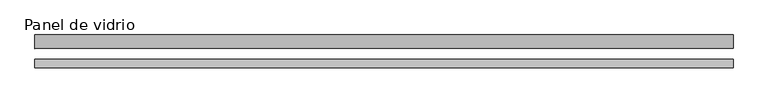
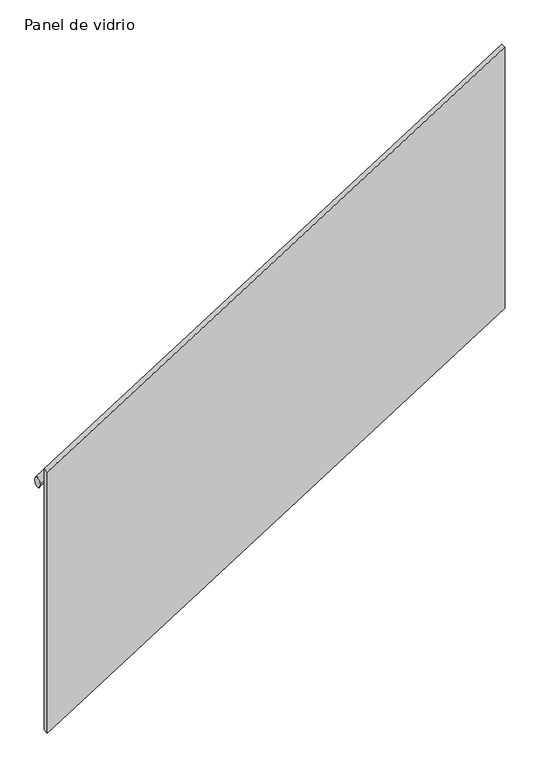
"""IFC4 building model written with IfcOpenShell, lengths in millimetres: railing geometry, Panel de vidrio."""

import ifcopenshell
import ifcopenshell.guid

model = None  # the IFC model being written
_history = None  # IfcOwnerHistory: only IFC2X3 demands one
_inside = {}  # id of a spatial element -> (the spatial element, [elements in it])
_under = {}  # id of a project, library or spatial element -> (it, [spatial elements below it])
_declared = {}  # id of a project -> (the project, [libraries it declares])
_typed = {}  # id of a type object -> (the type object, [elements of that type])
_made_of = {}  # id of a material, layer set ... -> (it, [elements and type objects made of it])


def new_model(schema):
    """Start an empty IFC model of exactly this schema.

    Asked for "IFC4X3", IfcOpenShell would pick the latest addendum, in which some entities
    have other attributes; the version numbers below select the first issue.
    IFC2X3 requires an IfcOwnerHistory on every rooted entity: one is made here for all.
    """
    global model, _history
    if schema == "IFC4X3":
        model = ifcopenshell.file(schema_version=(4, 3, 0, 0))
    else:
        model = ifcopenshell.file(schema=schema)
    _inside.clear()
    _under.clear()
    _declared.clear()
    _typed.clear()
    _made_of.clear()
    _history = None
    if model.schema == "IFC2X3":
        org = make("IfcOrganization", Name="unknown")
        user = make(
            "IfcPersonAndOrganization",
            ThePerson=make("IfcPerson", FamilyName="unknown"),
            TheOrganization=org,
        )
        app = make(
            "IfcApplication",
            ApplicationDeveloper=org,
            Version="unknown",
            ApplicationFullName="unknown",
            ApplicationIdentifier="unknown",
        )
        _history = make(
            "IfcOwnerHistory",
            OwningUser=user,
            OwningApplication=app,
            ChangeAction="ADDED",
            CreationDate=0,
        )
    return model


def make(cls, **values):
    """One entity of the class cls with the attributes given. An attribute that is None is left unset."""
    return model.create_entity(
        cls, **{name: value for name, value in values.items() if value is not None}
    )


def rooted(cls, **values):
    """An entity with a GlobalId (a new one), such as an element, a storey or a relation."""
    return make(cls, GlobalId=ifcopenshell.guid.new(), OwnerHistory=_history, **values)


def si_unit(unit_type, name, prefix=None):
    """IfcSIUnit, for example si_unit("LENGTHUNIT", "METRE", prefix="MILLI")."""
    return make("IfcSIUnit", UnitType=unit_type, Prefix=prefix, Name=name)


def assignment(units):
    """IfcUnitAssignment: the units of a project."""
    return None if units is None else make("IfcUnitAssignment", Units=units)


def point(xyz):
    """IfcCartesianPoint."""
    return None if xyz is None else make("IfcCartesianPoint", Coordinates=xyz)


def direction(xyz):
    """IfcDirection."""
    return None if xyz is None else make("IfcDirection", DirectionRatios=xyz)


def frame(location, z_axis=None, x_axis=None):
    """IfcAxis2Placement3D, a coordinate frame: its origin and axes. An axis left out is left unset."""
    return make(
        "IfcAxis2Placement3D",
        Location=point(location),
        Axis=direction(z_axis),
        RefDirection=direction(x_axis),
    )


def origin():
    """The frame at (0, 0, 0) with its axes left unset."""
    return frame((0.0, 0.0, 0.0))


def place(relative_to, where):
    """IfcLocalPlacement: puts the frame where relative to a parent placement (None: the world)."""
    return make(
        "IfcLocalPlacement", PlacementRelTo=relative_to, RelativePlacement=where
    )


def context(
    kind, dimensions, precision=None, world=None, true_north=None, identifier=None
):
    """IfcGeometricRepresentationContext, for example the 3D "Model" context."""
    return make(
        "IfcGeometricRepresentationContext",
        ContextIdentifier=identifier,
        ContextType=kind,
        CoordinateSpaceDimension=dimensions,
        Precision=precision,
        WorldCoordinateSystem=world,
        TrueNorth=true_north,
    )


def project(units=None, contexts=None):
    """IfcProject with its units and contexts."""
    return rooted(
        "IfcProject",
        Name="project",
        RepresentationContexts=contexts,
        UnitsInContext=assignment(units),
    )


def spatial(cls, under=None, at=None, **own):
    """A site, building, storey or space (cls), placed at a placement, below another one or the project."""
    s = rooted(cls, ObjectPlacement=at, **own)
    if under is not None:
        _under.setdefault(under.id(), (under, []))[1].append(s)
    return s


def ellipse_curve(where, semi_axis1, semi_axis2):
    """IfcEllipse in the frame where."""
    return make(
        "IfcEllipse", Position=where, SemiAxis1=semi_axis1, SemiAxis2=semi_axis2
    )


def faces_of(points, faces, orient=None, outer=None):
    """IfcFace entities. A face is a list of loops; a loop is a list of indices into points, from 0.

    orient and outer hold one flag for each loop. By default every Orientation is true, the
    first loop of a face is its IfcFaceOuterBound and the others are IfcFaceBound.
    """
    made = []
    for i, loops in enumerate(faces):
        bounds = []
        for j, loop in enumerate(loops):
            is_outer = j == 0 if outer is None else outer[i][j]
            bounds.append(
                make(
                    "IfcFaceOuterBound" if is_outer else "IfcFaceBound",
                    Bound=make("IfcPolyLoop", Polygon=[points[k] for k in loop]),
                    Orientation=True if orient is None else orient[i][j],
                )
            )
        made.append(make("IfcFace", Bounds=bounds))
    return made


def faceted_brep(points, faces, orient=None, outer=None, voids=None):
    """IfcFacetedBrep: a solid bounded by flat faces; with voids (closed shells), ...WithVoids."""
    shared = [point(p) for p in points]
    hull = make("IfcClosedShell", CfsFaces=faces_of(shared, faces, orient, outer))
    if voids is None:
        return make("IfcFacetedBrep", Outer=hull)
    return make(
        "IfcFacetedBrepWithVoids",
        Outer=hull,
        Voids=[
            make(cls, CfsFaces=faces_of(shared, fs, o, b)) for cls, fs, o, b in voids
        ],
    )


def shape(context_of_items, identifier, shape_type, items):
    """IfcShapeRepresentation: the items that make up one representation, for example the "Body"."""
    return make(
        "IfcShapeRepresentation",
        ContextOfItems=context_of_items,
        RepresentationIdentifier=identifier,
        RepresentationType=shape_type,
        Items=items,
    )


def source(mapping_origin, context_of_items, identifier, shape_type, items):
    """IfcRepresentationMap: a shape defined once, which mapped items show again and again."""
    return make(
        "IfcRepresentationMap",
        MappingOrigin=mapping_origin,
        MappedRepresentation=shape(context_of_items, identifier, shape_type, items),
    )


def transform(
    local_origin,
    x_axis=None,
    y_axis=None,
    z_axis=None,
    scale=None,
    scale2=None,
    scale3=None,
    uniform=True,
):
    """IfcCartesianTransformationOperator3D, or its non-uniform kind. x_axis, y_axis, z_axis: its Axis1, 2, 3."""
    if uniform:
        return make(
            "IfcCartesianTransformationOperator3D",
            Axis1=direction(x_axis),
            Axis2=direction(y_axis),
            LocalOrigin=point(local_origin),
            Scale=scale,
            Axis3=direction(z_axis),
        )
    return make(
        "IfcCartesianTransformationOperator3DnonUniform",
        Axis1=direction(x_axis),
        Axis2=direction(y_axis),
        LocalOrigin=point(local_origin),
        Scale=scale,
        Axis3=direction(z_axis),
        Scale2=scale2,
        Scale3=scale3,
    )


def mapped(mapping_source, mapping_target):
    """IfcMappedItem: shows the shape of a source again, moved by a transform."""
    return make(
        "IfcMappedItem", MappingSource=mapping_source, MappingTarget=mapping_target
    )


def made_of(thing, what):
    """Note that an element or type object is made of a material, layer set ...; save() writes the relation."""
    if what is not None:
        _made_of.setdefault(what.id(), (what, []))[1].append(thing)
    return thing


def element(
    cls,
    number,
    at=None,
    inside=None,
    cuts=None,
    type_object=None,
    material=None,
    context=None,
    identifier="Body",
    shape_type=None,
    held_by="IfcProductDefinitionShape",
    body=None,
    shapes=None,
    **own,
):
    """One element of the class cls, such as IfcWall. Its Tag is "e" and its number.

    at: its placement. inside: the storey or other place that contains it. cuts: it is an
    opening in that element (IfcRelVoidsElement). A single representation is given by context,
    identifier, shape_type and body (its items); several are given by shapes. held_by: the class
    of the entity that holds the representations. save() writes the other relations.
    """
    e = rooted(cls, Tag="e%d" % number, ObjectPlacement=at, **own)
    if body is not None:
        shapes = [shape(context, identifier, shape_type, body)]
    if shapes is not None:
        e.Representation = make(held_by, Representations=shapes)
    if inside is not None:
        _inside.setdefault(inside.id(), (inside, []))[1].append(e)
    if cuts is not None:
        rooted(
            "IfcRelVoidsElement", RelatingBuildingElement=cuts, RelatedOpeningElement=e
        )
    if type_object is not None:
        _typed.setdefault(type_object.id(), (type_object, []))[1].append(e)
    return made_of(e, material)


def aggregate(whole, parts):
    """IfcRelAggregates: a whole, such as a stair, and the parts it consists of."""
    return rooted("IfcRelAggregates", RelatingObject=whole, RelatedObjects=parts)


def save(model, path):
    """Write the relations noted so far, then the file.

    IfcRelAggregates (storeys below a building ...), IfcRelContainedInSpatialStructure (elements
    in a storey), IfcRelDefinesByType, IfcRelAssociatesMaterial and IfcRelDeclares: one each for
    every whole, place, type object, material and project.
    """
    for whole, parts in _under.values():
        aggregate(whole, parts)
    for where, things in _inside.values():
        rooted(
            "IfcRelContainedInSpatialStructure",
            RelatedElements=things,
            RelatingStructure=where,
        )
    for kind, things in _typed.values():
        rooted("IfcRelDefinesByType", RelatedObjects=things, RelatingType=kind)
    for what, things in _made_of.values():
        rooted("IfcRelAssociatesMaterial", RelatedObjects=things, RelatingMaterial=what)
    for by, libraries in _declared.values():
        rooted("IfcRelDeclares", RelatingContext=by, RelatedDefinitions=libraries)
    model.write(path)


def plane_surface(at):
    """IfcPlane: the flat surface through the origin of the frame at, square to its z axis."""
    return make("IfcPlane", Position=at)


def cylinder_surface(at, radius):
    """IfcCylindricalSurface: all points at the distance radius from the z axis of the frame at."""
    return make("IfcCylindricalSurface", Position=at, Radius=radius)


def advanced_brep(points, edges, surfaces, faces):
    """IfcAdvancedBrep: a solid bounded by faces that lie on surfaces and meet in shared edges.

    An edge is (start, end): straight between two places in points (the first is 0);
    or (start, end, curve); or (start, end, curve, False) where it runs against its curve.
    A face is (place in surfaces, loops), or (place, loops, False) where it looks against
    its surface's normal. A loop lists edges by number (the first is 1), with a minus sign
    where the edge is run from its end to its start. The first loop is the outer one.
    """
    corners = [point(p) for p in points]
    vertices = [make("IfcVertexPoint", VertexGeometry=c) for c in corners]
    made = []
    for start, end, *more in edges:
        made.append(
            make(
                "IfcEdgeCurve",
                EdgeStart=vertices[start],
                EdgeEnd=vertices[end],
                EdgeGeometry=more[0] if more else make("IfcPolyline", Points=[corners[start], corners[end]]),
                SameSense=more[1] if len(more) > 1 else True,
            )
        )
    hull = []
    for where, loops, *sense in faces:
        bounds = []
        for j, loop in enumerate(loops):
            ring = [make("IfcOrientedEdge", EdgeElement=made[abs(k) - 1], Orientation=k > 0) for k in loop]
            bounds.append(
                make(
                    "IfcFaceOuterBound" if j == 0 else "IfcFaceBound",
                    Bound=make("IfcEdgeLoop", EdgeList=ring),
                    Orientation=True,
                )
            )
        hull.append(make("IfcAdvancedFace", Bounds=bounds, FaceSurface=surfaces[where], SameSense=sense[0] if sense else True))
    return make("IfcAdvancedBrep", Outer=make("IfcClosedShell", CfsFaces=hull))


def panel_de_vidrio_5ddb8d8d(model_context):
    return source(origin(), model_context, "Body", "SolidModel", [
        faceted_brep([(35023.8589874, 29817.1037797, 14558.4109025), (35023.8589874, 29842.1037797, 14558.4109025), (35023.8589874, 29842.1037797, 13317.2692805), (35023.8589874, 29817.1037797, 13317.2692805), (37083.8589874, 29817.1037797, 15856.7302303), (37083.8589874, 29817.1037797, 14615.5886082), (37083.8589874, 29842.1037797, 14615.5886082), (37083.8589874, 29842.1037797, 15856.7302303)], [[[0, 1, 2, 3]], [[4, 5, 6, 7]], [[1, 0, 4, 7]], [[2, 1, 7, 6]], [[3, 2, 6, 5]], [[0, 3, 5, 4]]]),
        advanced_brep(
        [(35023.8589874, 29914.010184, 14463.8655462), (35023.8589874, 29874.010184, 14463.8655462), (37083.8589874, 29914.010184, 15762.1848739), (37083.8589874, 29874.010184, 15762.1848739)],
        [
            (0, 1, ellipse_curve(frame((35023.8589874, 29894.010184, 14463.8655462), z_axis=(-1.0, 0.0, 0.0), x_axis=(0.0, 0.0, -1.0)), 23.6407928, 20.0)),
            (1, 0, ellipse_curve(frame((35023.8589874, 29894.010184, 14463.8655462), z_axis=(-1.0, 0.0, 0.0), x_axis=(0.0, 0.0, -1.0)), 23.6407928, 20.0)),
            (2, 3, ellipse_curve(frame((37083.8589874, 29894.010184, 15762.1848739), z_axis=(1.0, 0.0, 0.0), x_axis=(0.0, 0.0, -1.0)), 23.6407928, 20.0)),
            (3, 2, ellipse_curve(frame((37083.8589874, 29894.010184, 15762.1848739), z_axis=(1.0, 0.0, 0.0), x_axis=(0.0, 0.0, -1.0)), 23.6407928, 20.0)),
            (0, 2),
            (3, 1),
        ],
        [
            plane_surface(frame((35023.8589874, 29894.010184, 14463.8655462), z_axis=(-1.0, 0.0, 0.0), x_axis=(0.0, 1.0, 0.0))),
            plane_surface(frame((37083.8589874, 29894.010184, 15762.1848739), z_axis=(1.0, 0.0, 0.0), x_axis=(0.0, 1.0, 0.0))),
            cylinder_surface(frame((35023.8589874, 29894.010184, 14463.8655462), z_axis=(-0.8459953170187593, 0.0, -0.5331903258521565), x_axis=(0.0, -1.0, 0.0)), 20.0),
        ],
        [
            (0, [[1, 2]]),
            (1, [[3, 4]]),
            (2, [[-1, 5, -4, 6]]),
            (2, [[-2, -6, -3, -5]]),
        ],
    ),
    ])


if __name__ == "__main__":
    model = new_model("IFC4")
    model_context = context("Model", 3, world=origin())
    ifc_project = project(units=[si_unit("LENGTHUNIT", "METRE", prefix="MILLI")], contexts=[model_context])
    site = spatial("IfcSite", under=ifc_project)
    building = spatial("IfcBuilding", under=site)
    placement = place(None, origin())
    panel_de_vidrio_shape = panel_de_vidrio_5ddb8d8d(model_context)
    element("IfcRailing", 1, ObjectType="Panel de vidrio", at=placement, inside=building, context=model_context, shape_type="MappedRepresentation", body=[
        mapped(panel_de_vidrio_shape, transform((0.0, 0.0, 0.0), x_axis=(1.0, 0.0, 0.0), y_axis=(0.0, 1.0, 0.0), z_axis=(0.0, 0.0, 1.0))),
    ])
    save(model, "model.ifc")
